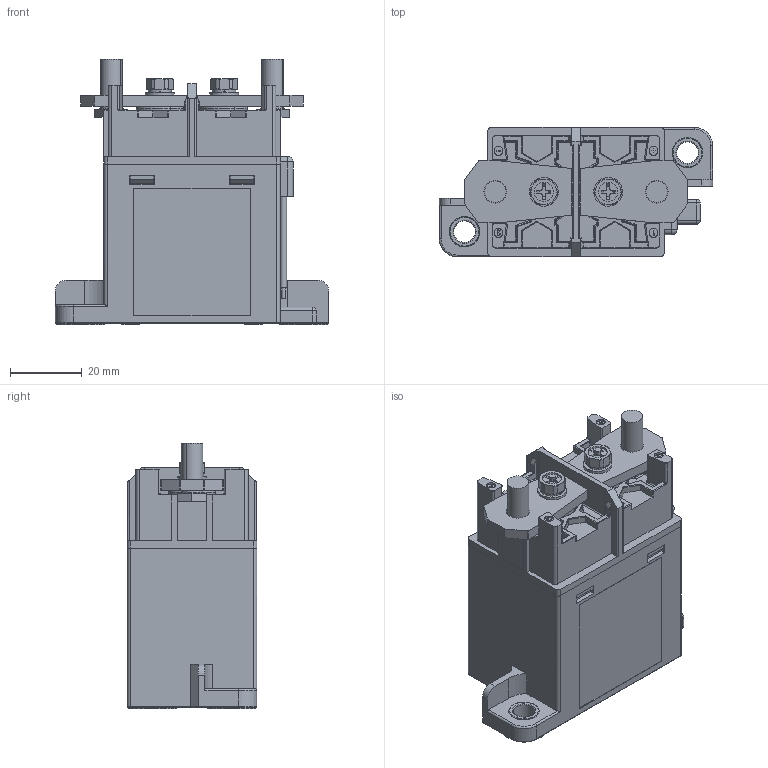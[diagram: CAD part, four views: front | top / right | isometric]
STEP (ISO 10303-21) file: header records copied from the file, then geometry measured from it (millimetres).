
FILE_DESCRIPTION (( 'STEP AP214' ), '1' );
FILE_NAME ('NDZ3AT-150DP.STEP', '2021-09-23T10:30:53', ( '' ), ( '' ), 'SwSTEP 2.0', 'SolidWorks 2018', '' );
FILE_SCHEMA (( 'AUTOMOTIVE_DESIGN' ));
Length unit declared in the file: millimetre
Products named in the file (23): 8LD.005.0209.STEP.STEP; M4__10________.STEP.STEP; 8LD.005.0219.STEP.STEP; ______-0.STEP.STEP; 8LD.742.0171.STEP.STEP; 5LD.150.0006.STEP.STEP; 8LD.588.0021.STEP.STEP; 5LD.024.0152.STEP.STEP; NDZ3AT-150DP.STEP; ______.STEP.STEP; NDZ3AT-150DP.STEP.STEP; 5LD.005.0076.STEP.STEP; M4X8.STEP.STEP; 5LD.130.0001.STEP.STEP; M4____.STEP.STEP; NDZ3AT-150DP; M6____.STEP.STEP; 5LD.212.0001.STEP.STEP; 8LD.568.0003.STEP.STEP; 8LD.150.0045.STEP.STEP; 8LD.150.0005.STEP.STEP; GB__T97__1-2002______A__4__0.8.STEP.STEP; 8LD.144.0001.STEP.STEP
Assembly tree (28 placements, depth 7):
  NDZ3AT-150DP
    NDZ3AT-150DP.STEP
      NDZ3AT-150DP.STEP.STEP
        5LD.005.0076.STEP.STEP
          8LD.005.0219.STEP.STEP
          8LD.144.0001.STEP.STEP  x2
        5LD.130.0001.STEP.STEP
          5LD.150.0006.STEP.STEP
            5LD.024.0152.STEP.STEP
              8LD.742.0171.STEP.STEP
              8LD.568.0003.STEP.STEP  x2
              8LD.150.0045.STEP.STEP
              8LD.150.0005.STEP.STEP  x2
        5LD.212.0001.STEP.STEP
          8LD.005.0209.STEP.STEP
        M4__10________.STEP.STEP  x2
          M4X8.STEP.STEP
          GB__T97__1-2002______A__4__0.8.STEP.STEP
          M4____.STEP.STEP
        8LD.588.0021.STEP.STEP  x2
        M6____.STEP.STEP  x2
        ______.STEP.STEP
        ______-0.STEP.STEP
Bounding box: 76 x 36 x 73.7 mm (x, y, z)
Volume: 36681.3 mm3; surface area: 43851.5 mm2
Topology: 22 solids, 22 shells, 1648 faces, 4235 edges, 2637 vertices
Faces by surface type: plane 760, cylinder 633, torus 162, bspline 61, cone 20, sphere 12
Entity records: 49664 total; most frequent: CARTESIAN_POINT 12622, ORIENTED_EDGE 7712, DIRECTION 7484, EDGE_CURVE 3856, AXIS2_PLACEMENT_3D 2513, VECTOR 2458, LINE 2458, VERTEX_POINT 2420
